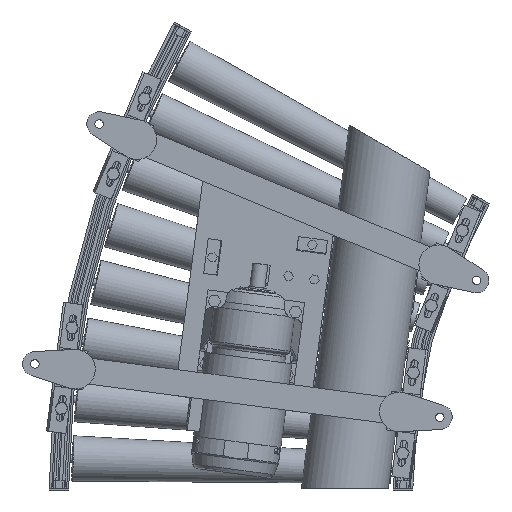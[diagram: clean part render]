
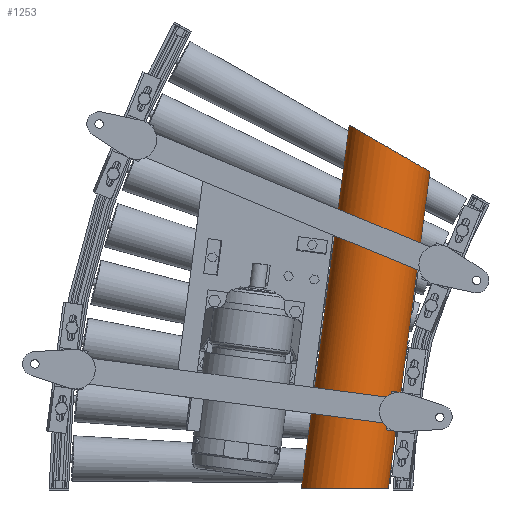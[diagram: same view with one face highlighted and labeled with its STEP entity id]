
A CAD part, front view. The second image highlights one B-rep face of the part: STEP entity #1253.
In plain terms, the highlighted cylindrical face has radius 66.3 mm (diameter 132.6 mm), a partial arc.
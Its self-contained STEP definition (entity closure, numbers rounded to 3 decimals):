
#1253=ADVANCED_FACE('',(#4931),#4930,.T.);
#4930=CYLINDRICAL_SURFACE('',#26495,66.3);
#4931=FACE_OUTER_BOUND('',#26496,.T.);
#26492=CARTESIAN_POINT('',(322.312,-151.7,1116.199));
#26493=DIRECTION('',(0.131,0.,0.991));
#26494=DIRECTION('',(0.991,0.,-0.131));
#26495=AXIS2_PLACEMENT_3D('',#26492,#26493,#26494);
#26496=EDGE_LOOP('',(#38188,#38189,#38190,#38191));
#38188=ORIENTED_EDGE('',*,*,#48703,.F.);
#38189=ORIENTED_EDGE('',*,*,#48704,.F.);
#38190=ORIENTED_EDGE('',*,*,#48705,.T.);
#38191=ORIENTED_EDGE('',*,*,#48700,.T.);
#48700=EDGE_CURVE('',#56234,#56226,#56235,.T.);
#48703=EDGE_CURVE('',#56254,#56226,#56255,.T.);
#48704=EDGE_CURVE('',#56261,#56254,#56262,.T.);
#48705=EDGE_CURVE('',#56261,#56234,#56268,.T.);
#56226=VERTEX_POINT('',#91359);
#56234=VERTEX_POINT('',#91364);
#56235=LINE('',#91365,#91366);
#56254=VERTEX_POINT('',#91375);
#56255=(BOUNDED_CURVE() B_SPLINE_CURVE(2,(#91376,#91377,#91378,#91379,#91380),.UNSPECIFIED.,.F.,.F.) B_SPLINE_CURVE_WITH_KNOTS((3,2,3),(3.142,4.712,6.283),.UNSPECIFIED.) CURVE() GEOMETRIC_REPRESENTATION_ITEM() RATIONAL_B_SPLINE_CURVE((1.,0.707,1.,0.707,1.)) REPRESENTATION_ITEM('') );
#56261=VERTEX_POINT('',#91381);
#56262=LINE('',#91382,#91383);
#56268=(BOUNDED_CURVE() B_SPLINE_CURVE(2,(#91385,#91386,#91387,#91388,#91389),.UNSPECIFIED.,.F.,.F.) B_SPLINE_CURVE_WITH_KNOTS((3,2,3),(0.,1.571,3.142),.UNSPECIFIED.) CURVE() GEOMETRIC_REPRESENTATION_ITEM() RATIONAL_B_SPLINE_CURVE((1.,0.707,1.,0.707,1.)) REPRESENTATION_ITEM('') );
#91359=CARTESIAN_POINT('',(108.49,-151.7,0.));
#91364=CARTESIAN_POINT('',(182.062,-151.7,558.839));
#91365=CARTESIAN_POINT('',(182.062,-151.7,558.839));
#91366=VECTOR('',#91367,563.661);
#91367=DIRECTION('',(-0.131,0.,-0.991));
#91375=CARTESIAN_POINT('',(242.234,-151.7,0.));
#91376=CARTESIAN_POINT('',(242.234,-151.7,0.));
#91377=CARTESIAN_POINT('',(242.234,-218.,0.));
#91378=CARTESIAN_POINT('',(175.362,-218.,0.));
#91379=CARTESIAN_POINT('',(108.49,-218.,0.));
#91380=CARTESIAN_POINT('',(108.49,-151.7,0.));
#91381=CARTESIAN_POINT('',(306.359,-151.7,487.076));
#91382=CARTESIAN_POINT('',(306.359,-151.7,487.076));
#91383=VECTOR('',#91384,491.279);
#91384=DIRECTION('',(-0.131,0.,-0.991));
#91385=CARTESIAN_POINT('',(306.359,-151.7,487.076));
#91386=CARTESIAN_POINT('',(306.359,-218.,487.076));
#91387=CARTESIAN_POINT('',(244.211,-218.,522.958));
#91388=CARTESIAN_POINT('',(182.062,-218.,558.839));
#91389=CARTESIAN_POINT('',(182.062,-151.7,558.839));
